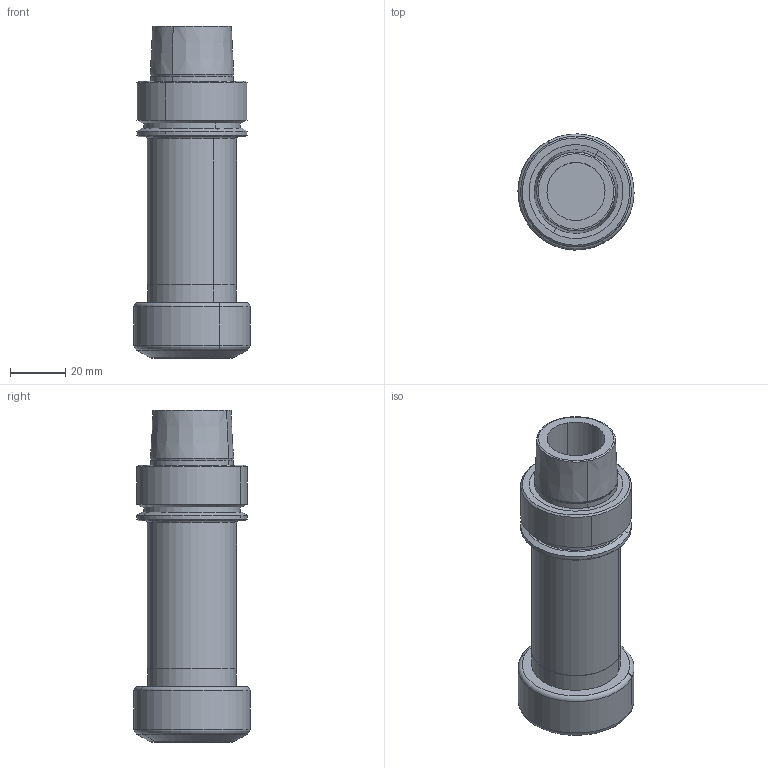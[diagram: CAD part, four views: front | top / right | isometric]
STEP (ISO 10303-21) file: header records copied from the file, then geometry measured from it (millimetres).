
FILE_DESCRIPTION(('CATIA V5 STEP','CAx-IF Rec.Pracs.--- Model Styling and Organization---1.2---2011-12-15'),'2;1');
FILE_NAME('\\nas01\drv1\utils\eitdev\rte\eit\transmagicconvert\db\out\635925017924911304\4561316-L-B.stp','2016-03-02T05:50:04+00:00',('none'),('none'),'CATIA Version 5 Release 21 SP 5 (IN-10)','CATIA V5 STEP AP214','none');
FILE_SCHEMA(('AUTOMOTIVE_DESIGN { 1 0 10303 214 1 1 1 1 }'));
Length unit declared in the file: millimetre
Products named in the file (1): HSK A 40 ER25X100
Bounding box: 41.99 x 41.99 x 120 mm (x, y, z)
Volume: 87103.1 mm3; surface area: 21168.8 mm2
Topology: 1 solids, 1 shells, 67 faces, 146 edges, 87 vertices
Faces by surface type: cone 22, cylinder 22, torus 14, plane 9
Entity records: 1709 total; most frequent: CARTESIAN_POINT 365, ORIENTED_EDGE 288, DIRECTION 218, EDGE_CURVE 144, AXIS2_PLACEMENT_3D 135, CIRCLE 94, VERTEX_POINT 87, EDGE_LOOP 75
